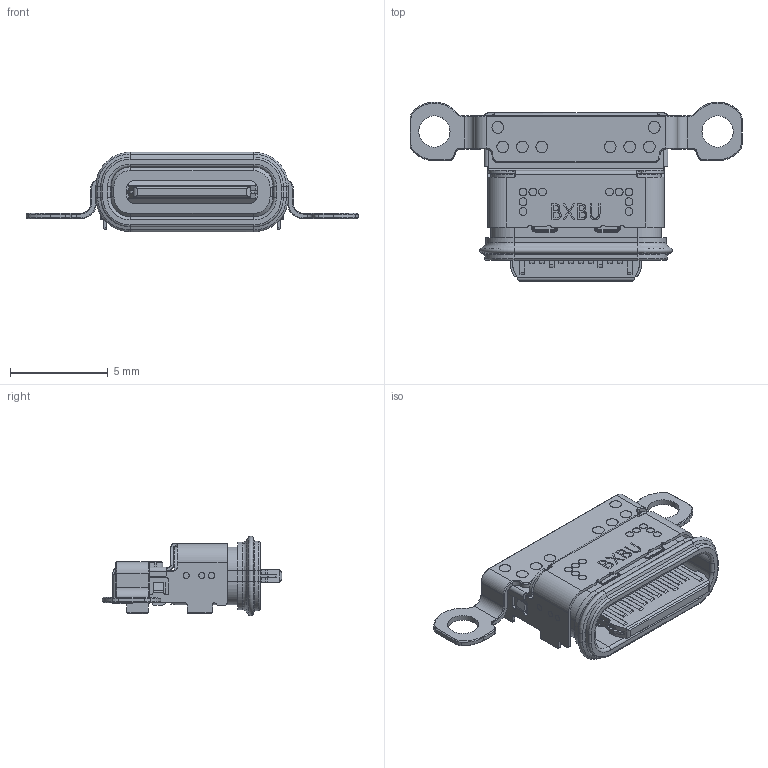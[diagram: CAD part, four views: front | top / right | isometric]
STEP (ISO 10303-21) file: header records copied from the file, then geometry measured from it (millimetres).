
FILE_DESCRIPTION((' '),'2;1');
FILE_NAME( 'U5189-24PNMW8.65LF .stp', '2026-05-11T17:22:04', (' '), ('--- ---'), ' V2026.1 Dec 31 2025', ' 2026 (c)', ' ');
FILE_SCHEMA(('AP242_MANAGED_MODEL_BASED_3D_ENGINEERING_MIM_LF { 1 0 10303 442 1 1 4 }'));
Length unit declared in the file: millimetre
Products named in the file (3): TYPE_C24P防水-3D; U5189-24PNMW8.65LF (2); U5189-24PNMW8.65LF 
Assembly tree (2 placements, depth 3):
  U5189-24PNMW8.65LF 
    U5189-24PNMW8.65LF (2)
      TYPE_C24P防水-3D
Bounding box: 17 x 9.2 x 4.07 mm (x, y, z)
Surface area: 691.8 mm2
Topology: 3 solids, 9 shells, 1527 faces, 4177 edges, 2687 vertices
Faces by surface type: plane 901, cylinder 437, cone 82, torus 64, bspline 25, sphere 18
Entity records: 51564 total; most frequent: CARTESIAN_POINT 16167, ORIENTED_EDGE 8308, DIRECTION 5613, EDGE_CURVE 4176, VERTEX_POINT 2687, VECTOR 2595, LINE 2595, EDGE_LOOP 1597
